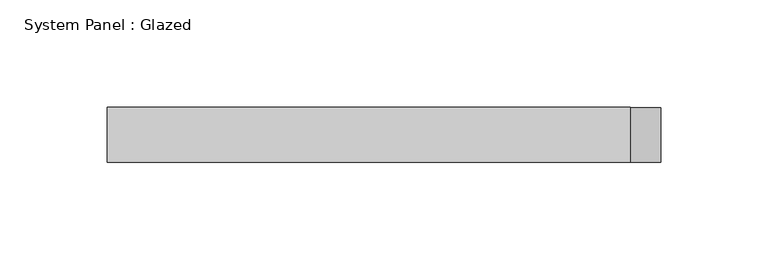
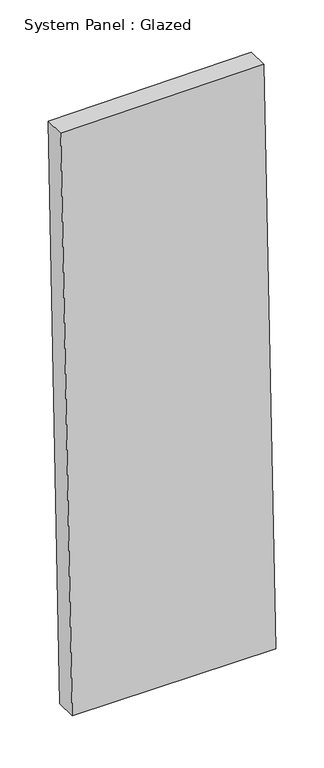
"""IFC4 building model written with IfcOpenShell, lengths in millimetres: plate geometry, System Panel : Glazed."""

from ifc_helpers import new_model, si_unit, frame, origin, place, context, project, spatial, polyline, outline, extrude, source, transform, mapped, element, save


def system_panel_glazed_f8278d9a(model_context):
    return source(origin(), model_context, "Body", "SweptSolid", [
        extrude(outline(polyline([(0.0, -114.8730548), (0.0, 128.6964669), (744.0414526, 114.5164848), (741.7524258, -128.6964669), (0.0, -114.8730548)])), frame((0.0, -44.45, 0.0), z_axis=(0.0, 1.0, 0.0), x_axis=(0.0, 0.0, 1.0)), (0.0, 0.0, 1.0), 25.4),
    ])


if __name__ == "__main__":
    model = new_model("IFC4")
    model_context = context("Model", 3, world=origin())
    ifc_project = project(units=[si_unit("LENGTHUNIT", "METRE", prefix="MILLI")], contexts=[model_context])
    site = spatial("IfcSite", under=ifc_project)
    building = spatial("IfcBuilding", under=site)
    placement = place(None, origin())
    system_panel_glazed_shape = system_panel_glazed_f8278d9a(model_context)
    element("IfcPlate", 1, ObjectType="System Panel : Glazed", at=placement, inside=building, context=model_context, shape_type="MappedRepresentation", body=[
        mapped(system_panel_glazed_shape, transform((0.0, 0.0, 0.0), x_axis=(1.0, 0.0, 0.0), y_axis=(0.0, 1.0, 0.0), z_axis=(0.0, 0.0, 1.0))),
    ])
    save(model, "model.ifc")
